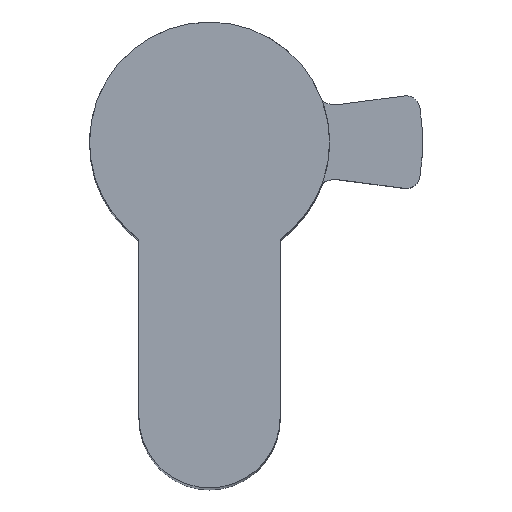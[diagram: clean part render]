
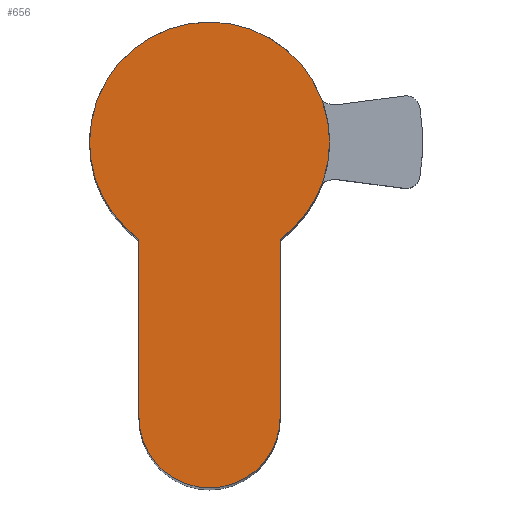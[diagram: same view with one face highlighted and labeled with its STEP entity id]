
A CAD part, top view. The second image highlights one B-rep face of the part: STEP entity #656.
In plain terms, the highlighted planar face has unit normal (0, 0, 1).
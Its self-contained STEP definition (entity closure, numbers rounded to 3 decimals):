
#25 = EDGE_CURVE ( 'NONE', #698, #873, #512, .T. ) ;
#70 = ORIENTED_EDGE ( 'NONE', *, *, #703, .T. ) ;
#86 = CARTESIAN_POINT ( 'NONE',  ( 5., -19.5, 10. ) ) ;
#95 = VERTEX_POINT ( 'NONE', #86 ) ;
#193 = DIRECTION ( 'NONE',  ( 0., 0., 1. ) ) ;
#221 = CARTESIAN_POINT ( 'NONE',  ( 0., -19.5, 10. ) ) ;
#234 = AXIS2_PLACEMENT_3D ( 'NONE', #1028, #297, #775 ) ;
#260 = CIRCLE ( 'NONE', #1087, 5. ) ;
#297 = DIRECTION ( 'NONE',  ( 0., 0., 1. ) ) ;
#317 = VECTOR ( 'NONE', #747, 1000. ) ;
#319 = DIRECTION ( 'NONE',  ( 1., 0., 0. ) ) ;
#321 = LINE ( 'NONE', #1514, #1283 ) ;
#395 = EDGE_CURVE ( 'NONE', #873, #552, #1186, .T. ) ;
#408 = ORIENTED_EDGE ( 'NONE', *, *, #395, .T. ) ;
#412 = AXIS2_PLACEMENT_3D ( 'NONE', #438, #193, #319 ) ;
#438 = CARTESIAN_POINT ( 'NONE',  ( 0., 0., 10. ) ) ;
#447 = VERTEX_POINT ( 'NONE', #1392 ) ;
#451 = EDGE_CURVE ( 'NONE', #95, #698, #321, .T. ) ;
#487 = CIRCLE ( 'NONE', #412, 8.5 ) ;
#497 = CARTESIAN_POINT ( 'NONE',  ( -5., -6.874, 10. ) ) ;
#501 = EDGE_CURVE ( 'NONE', #447, #95, #260, .T. ) ;
#512 = CIRCLE ( 'NONE', #1280, 8.5 ) ;
#550 = DIRECTION ( 'NONE',  ( 0., 0., 1. ) ) ;
#552 = VERTEX_POINT ( 'NONE', #638 ) ;
#634 = CARTESIAN_POINT ( 'NONE',  ( 0., 0., 10. ) ) ;
#638 = CARTESIAN_POINT ( 'NONE',  ( -8.5, 0., 10. ) ) ;
#656 = ADVANCED_FACE ( 'NONE', ( #1272 ), #1501, .T. ) ;
#682 = EDGE_LOOP ( 'NONE', ( #922, #408, #70, #1541, #1000, #1129 ) ) ;
#698 = VERTEX_POINT ( 'NONE', #1017 ) ;
#702 = DIRECTION ( 'NONE',  ( 1., 0., 0. ) ) ;
#703 = EDGE_CURVE ( 'NONE', #552, #720, #487, .T. ) ;
#720 = VERTEX_POINT ( 'NONE', #917 ) ;
#747 = DIRECTION ( 'NONE',  ( 0., -1., 0. ) ) ;
#775 = DIRECTION ( 'NONE',  ( 1., 0., 0. ) ) ;
#809 = DIRECTION ( 'NONE',  ( 1., 0., 0. ) ) ;
#873 = VERTEX_POINT ( 'NONE', #1298 ) ;
#917 = CARTESIAN_POINT ( 'NONE',  ( -5., -6.874, 10. ) ) ;
#922 = ORIENTED_EDGE ( 'NONE', *, *, #25, .T. ) ;
#965 = AXIS2_PLACEMENT_3D ( 'NONE', #634, #1108, #1407 ) ;
#974 = LINE ( 'NONE', #497, #317 ) ;
#1000 = ORIENTED_EDGE ( 'NONE', *, *, #501, .T. ) ;
#1017 = CARTESIAN_POINT ( 'NONE',  ( 5., -6.874, 10. ) ) ;
#1026 = DIRECTION ( 'NONE',  ( 0., 0., 1. ) ) ;
#1028 = CARTESIAN_POINT ( 'NONE',  ( 0., 0., 10. ) ) ;
#1087 = AXIS2_PLACEMENT_3D ( 'NONE', #221, #550, #702 ) ;
#1108 = DIRECTION ( 'NONE',  ( 0., 0., 1. ) ) ;
#1129 = ORIENTED_EDGE ( 'NONE', *, *, #451, .T. ) ;
#1186 = CIRCLE ( 'NONE', #965, 8.5 ) ;
#1272 = FACE_OUTER_BOUND ( 'NONE', #682, .T. ) ;
#1280 = AXIS2_PLACEMENT_3D ( 'NONE', #1522, #1026, #809 ) ;
#1283 = VECTOR ( 'NONE', #1385, 1000. ) ;
#1298 = CARTESIAN_POINT ( 'NONE',  ( 8.5, 0., 10. ) ) ;
#1385 = DIRECTION ( 'NONE',  ( 0., 1., 0. ) ) ;
#1392 = CARTESIAN_POINT ( 'NONE',  ( -5., -19.5, 10. ) ) ;
#1407 = DIRECTION ( 'NONE',  ( 1., 0., 0. ) ) ;
#1501 = PLANE ( 'NONE',  #234 ) ;
#1506 = EDGE_CURVE ( 'NONE', #720, #447, #974, .T. ) ;
#1514 = CARTESIAN_POINT ( 'NONE',  ( 5., -19.5, 10. ) ) ;
#1522 = CARTESIAN_POINT ( 'NONE',  ( 0., 0., 10. ) ) ;
#1541 = ORIENTED_EDGE ( 'NONE', *, *, #1506, .T. ) ;
